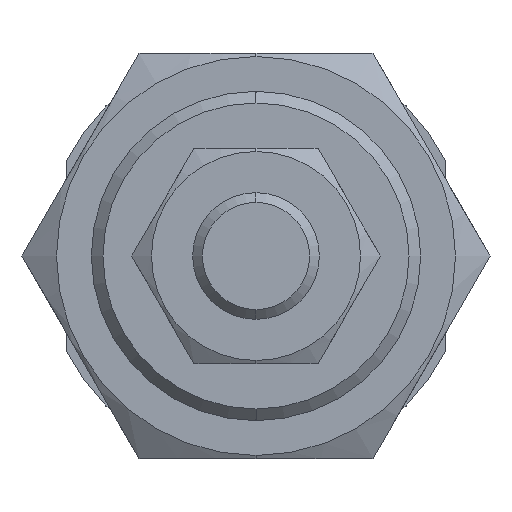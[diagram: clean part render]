
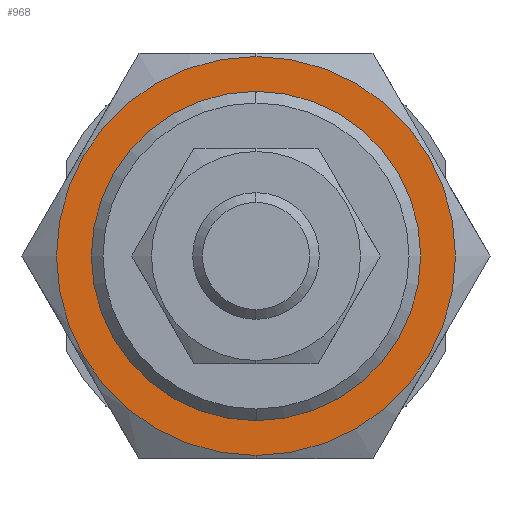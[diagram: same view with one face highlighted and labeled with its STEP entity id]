
A CAD part, left-side view. The second image highlights one B-rep face of the part: STEP entity #968.
In plain terms, the highlighted planar face has unit normal (-1, 0, 0).
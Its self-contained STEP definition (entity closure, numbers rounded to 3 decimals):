
#197 = DIRECTION ( 'NONE',  ( 1., 0., 0. ) ) ;
#277 = CARTESIAN_POINT ( 'NONE',  ( -11., 0., 13. ) ) ;
#432 = DIRECTION ( 'NONE',  ( 1., 0., 0. ) ) ;
#515 = CARTESIAN_POINT ( 'NONE',  ( -11., 0., 0. ) ) ;
#528 = CIRCLE ( 'NONE', #784, 13. ) ;
#532 = CIRCLE ( 'NONE', #4003, 15.75 ) ;
#784 = AXIS2_PLACEMENT_3D ( 'NONE', #4707, #197, #1866 ) ;
#838 = VERTEX_POINT ( 'NONE', #5198 ) ;
#908 = FACE_BOUND ( 'NONE', #910, .T. ) ;
#910 = EDGE_LOOP ( 'NONE', ( #4546, #3004 ) ) ;
#968 = ADVANCED_FACE ( 'NONE', ( #3291, #908 ), #4950, .F. ) ;
#1743 = EDGE_CURVE ( 'NONE', #838, #3685, #3323, .T. ) ;
#1809 = CARTESIAN_POINT ( 'NONE',  ( -11., 0., 0. ) ) ;
#1833 = DIRECTION ( 'NONE',  ( 0., 0., -1. ) ) ;
#1866 = DIRECTION ( 'NONE',  ( 0., 0., -1. ) ) ;
#1966 = AXIS2_PLACEMENT_3D ( 'NONE', #2569, #4224, #2890 ) ;
#2016 = ORIENTED_EDGE ( 'NONE', *, *, #2694, .F. ) ;
#2030 = ORIENTED_EDGE ( 'NONE', *, *, #2780, .F. ) ;
#2068 = EDGE_LOOP ( 'NONE', ( #2016, #2030 ) ) ;
#2140 = CARTESIAN_POINT ( 'NONE',  ( -11., 0., 15.75 ) ) ;
#2190 = DIRECTION ( 'NONE',  ( 1., 0., 0. ) ) ;
#2305 = VERTEX_POINT ( 'NONE', #2140 ) ;
#2395 = EDGE_CURVE ( 'NONE', #3685, #838, #528, .T. ) ;
#2569 = CARTESIAN_POINT ( 'NONE',  ( -11., 0., 0. ) ) ;
#2633 = DIRECTION ( 'NONE',  ( 1., 0., 0. ) ) ;
#2694 = EDGE_CURVE ( 'NONE', #3720, #2305, #532, .T. ) ;
#2780 = EDGE_CURVE ( 'NONE', #2305, #3720, #3566, .T. ) ;
#2890 = DIRECTION ( 'NONE',  ( 0., 1., 0. ) ) ;
#2908 = CARTESIAN_POINT ( 'NONE',  ( -11., 0., 0. ) ) ;
#3004 = ORIENTED_EDGE ( 'NONE', *, *, #1743, .T. ) ;
#3291 = FACE_OUTER_BOUND ( 'NONE', #2068, .T. ) ;
#3311 = DIRECTION ( 'NONE',  ( 0., 0., -1. ) ) ;
#3323 = CIRCLE ( 'NONE', #4800, 13. ) ;
#3566 = CIRCLE ( 'NONE', #4272, 15.75 ) ;
#3685 = VERTEX_POINT ( 'NONE', #277 ) ;
#3720 = VERTEX_POINT ( 'NONE', #4029 ) ;
#4003 = AXIS2_PLACEMENT_3D ( 'NONE', #2908, #432, #4570 ) ;
#4029 = CARTESIAN_POINT ( 'NONE',  ( -11., 0., -15.75 ) ) ;
#4224 = DIRECTION ( 'NONE',  ( 1., 0., 0. ) ) ;
#4272 = AXIS2_PLACEMENT_3D ( 'NONE', #515, #2190, #3311 ) ;
#4546 = ORIENTED_EDGE ( 'NONE', *, *, #2395, .T. ) ;
#4570 = DIRECTION ( 'NONE',  ( 0., 0., -1. ) ) ;
#4707 = CARTESIAN_POINT ( 'NONE',  ( -11., 0., 0. ) ) ;
#4800 = AXIS2_PLACEMENT_3D ( 'NONE', #1809, #2633, #1833 ) ;
#4950 = PLANE ( 'NONE',  #1966 ) ;
#5198 = CARTESIAN_POINT ( 'NONE',  ( -11., 0., -13. ) ) ;
